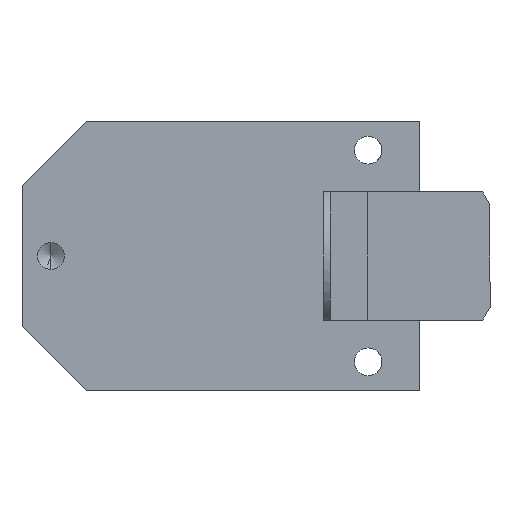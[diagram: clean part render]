
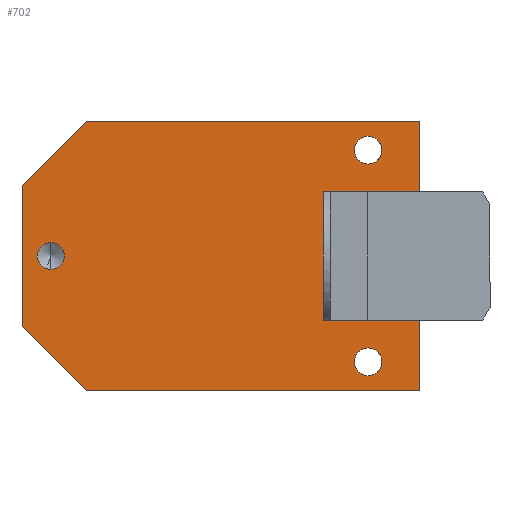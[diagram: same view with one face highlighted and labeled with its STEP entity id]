
A CAD part, front view. The second image highlights one B-rep face of the part: STEP entity #702.
In plain terms, the highlighted planar face has unit normal (0, -1, 0).
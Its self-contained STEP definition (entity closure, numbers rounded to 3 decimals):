
#2 = ORIENTED_EDGE ( 'NONE', *, *, #648, .T. ) ;
#219 = EDGE_CURVE ( 'NONE', #254, #220, #1499, .T. ) ;
#220 = VERTEX_POINT ( 'NONE', #1494 ) ;
#254 = VERTEX_POINT ( 'NONE', #1325 ) ;
#283 = VERTEX_POINT ( 'NONE', #1452 ) ;
#288 = EDGE_CURVE ( 'NONE', #283, #442, #1423, .T. ) ;
#392 = EDGE_CURVE ( 'NONE', #409, #393, #1607, .T. ) ;
#393 = VERTEX_POINT ( 'NONE', #1602 ) ;
#409 = VERTEX_POINT ( 'NONE', #1958 ) ;
#442 = VERTEX_POINT ( 'NONE', #1819 ) ;
#526 = EDGE_CURVE ( 'NONE', #570, #554, #1999, .T. ) ;
#545 = VERTEX_POINT ( 'NONE', #1987 ) ;
#553 = EDGE_CURVE ( 'NONE', #554, #634, #1979, .T. ) ;
#554 = VERTEX_POINT ( 'NONE', #1975 ) ;
#570 = VERTEX_POINT ( 'NONE', #2190 ) ;
#572 = EDGE_CURVE ( 'NONE', #545, #570, #2189, .T. ) ;
#592 = VERTEX_POINT ( 'NONE', #2160 ) ;
#634 = VERTEX_POINT ( 'NONE', #2003 ) ;
#648 = EDGE_CURVE ( 'NONE', #220, #254, #2080, .T. ) ;
#649 = EDGE_CURVE ( 'NONE', #650, #779, #2122, .T. ) ;
#650 = VERTEX_POINT ( 'NONE', #2118 ) ;
#651 = EDGE_LOOP ( 'NONE', ( #806, #652, #653, #654, #857, #867, #859, #869, #862, #855 ) ) ;
#652 = ORIENTED_EDGE ( 'NONE', *, *, #553, .T. ) ;
#653 = ORIENTED_EDGE ( 'NONE', *, *, #782, .F. ) ;
#654 = ORIENTED_EDGE ( 'NONE', *, *, #649, .F. ) ;
#655 = ORIENTED_EDGE ( 'NONE', *, *, #392, .T. ) ;
#656 = EDGE_LOOP ( 'NONE', ( #2, #818 ) ) ;
#679 = EDGE_CURVE ( 'NONE', #442, #283, #2415, .T. ) ;
#681 = VERTEX_POINT ( 'NONE', #2408 ) ;
#682 = EDGE_LOOP ( 'NONE', ( #700, #836 ) ) ;
#700 = ORIENTED_EDGE ( 'NONE', *, *, #679, .F. ) ;
#702 = ADVANCED_FACE ( 'NONE', ( #2423, #2369, #2368, #2367 ), #2366, .F. ) ;
#705 = EDGE_CURVE ( 'NONE', #706, #681, #2422, .T. ) ;
#706 = VERTEX_POINT ( 'NONE', #2417 ) ;
#758 = EDGE_CURVE ( 'NONE', #545, #592, #2233, .T. ) ;
#779 = VERTEX_POINT ( 'NONE', #2259 ) ;
#782 = EDGE_CURVE ( 'NONE', #779, #634, #2254, .T. ) ;
#806 = ORIENTED_EDGE ( 'NONE', *, *, #526, .T. ) ;
#817 = EDGE_LOOP ( 'NONE', ( #871, #655 ) ) ;
#818 = ORIENTED_EDGE ( 'NONE', *, *, #219, .T. ) ;
#836 = ORIENTED_EDGE ( 'NONE', *, *, #288, .F. ) ;
#855 = ORIENTED_EDGE ( 'NONE', *, *, #572, .T. ) ;
#857 = ORIENTED_EDGE ( 'NONE', *, *, #858, .T. ) ;
#858 = EDGE_CURVE ( 'NONE', #650, #706, #2493, .T. ) ;
#859 = ORIENTED_EDGE ( 'NONE', *, *, #868, .T. ) ;
#860 = VERTEX_POINT ( 'NONE', #2489 ) ;
#861 = EDGE_CURVE ( 'NONE', #860, #592, #2488, .T. ) ;
#862 = ORIENTED_EDGE ( 'NONE', *, *, #758, .F. ) ;
#867 = ORIENTED_EDGE ( 'NONE', *, *, #705, .T. ) ;
#868 = EDGE_CURVE ( 'NONE', #681, #860, #2582, .T. ) ;
#869 = ORIENTED_EDGE ( 'NONE', *, *, #861, .T. ) ;
#870 = EDGE_CURVE ( 'NONE', #393, #409, #2461, .T. ) ;
#871 = ORIENTED_EDGE ( 'NONE', *, *, #870, .T. ) ;
#1325 = CARTESIAN_POINT ( 'NONE',  ( 54., 0., 35.35 ) ) ;
#1419 = DIRECTION ( 'NONE',  ( 0., 0., -1. ) ) ;
#1420 = DIRECTION ( 'NONE',  ( 0., -1., 0. ) ) ;
#1421 = CARTESIAN_POINT ( 'NONE',  ( 4.5, 0., 21. ) ) ;
#1422 = AXIS2_PLACEMENT_3D ( 'NONE', #1421, #1420, #1419 ) ;
#1423 = CIRCLE ( 'NONE', #1422, 2.1 ) ;
#1452 = CARTESIAN_POINT ( 'NONE',  ( 4.5, 0., 23.1 ) ) ;
#1494 = CARTESIAN_POINT ( 'NONE',  ( 54., 0., 39.65 ) ) ;
#1495 = DIRECTION ( 'NONE',  ( 0., 0., 1. ) ) ;
#1496 = DIRECTION ( 'NONE',  ( 0., 1., 0. ) ) ;
#1497 = CARTESIAN_POINT ( 'NONE',  ( 54., 0., 37.5 ) ) ;
#1498 = AXIS2_PLACEMENT_3D ( 'NONE', #1497, #1496, #1495 ) ;
#1499 = CIRCLE ( 'NONE', #1498, 2.15 ) ;
#1602 = CARTESIAN_POINT ( 'NONE',  ( 54., 0., 6.65 ) ) ;
#1603 = DIRECTION ( 'NONE',  ( 0., 0., 1. ) ) ;
#1604 = DIRECTION ( 'NONE',  ( 0., 1., 0. ) ) ;
#1605 = CARTESIAN_POINT ( 'NONE',  ( 54., 0., 4.5 ) ) ;
#1606 = AXIS2_PLACEMENT_3D ( 'NONE', #1605, #1604, #1603 ) ;
#1607 = CIRCLE ( 'NONE', #1606, 2.15 ) ;
#1819 = CARTESIAN_POINT ( 'NONE',  ( 4.5, 0., 18.9 ) ) ;
#1958 = CARTESIAN_POINT ( 'NONE',  ( 54., 0., 2.35 ) ) ;
#1975 = CARTESIAN_POINT ( 'NONE',  ( 47., 0., 31. ) ) ;
#1976 = DIRECTION ( 'NONE',  ( 1., 0., 0. ) ) ;
#1977 = VECTOR ( 'NONE', #1976, 1000. ) ;
#1978 = CARTESIAN_POINT ( 'NONE',  ( 62., 0., 31. ) ) ;
#1979 = LINE ( 'NONE', #1978, #1977 ) ;
#1987 = CARTESIAN_POINT ( 'NONE',  ( 62., 0., 11. ) ) ;
#1999 = LINE ( 'NONE', #2021, #2020 ) ;
#2003 = CARTESIAN_POINT ( 'NONE',  ( 62., 0., 31. ) ) ;
#2019 = DIRECTION ( 'NONE',  ( 0., 0., 1. ) ) ;
#2020 = VECTOR ( 'NONE', #2019, 1000. ) ;
#2021 = CARTESIAN_POINT ( 'NONE',  ( 47., 0., 11. ) ) ;
#2080 = CIRCLE ( 'NONE', #2126, 2.15 ) ;
#2118 = CARTESIAN_POINT ( 'NONE',  ( 10., 0., 42. ) ) ;
#2119 = DIRECTION ( 'NONE',  ( 1., 0., 0. ) ) ;
#2120 = VECTOR ( 'NONE', #2119, 1000. ) ;
#2121 = CARTESIAN_POINT ( 'NONE',  ( 0., 0., 42. ) ) ;
#2122 = LINE ( 'NONE', #2121, #2120 ) ;
#2123 = DIRECTION ( 'NONE',  ( 0., 0., 1. ) ) ;
#2124 = DIRECTION ( 'NONE',  ( 0., 1., 0. ) ) ;
#2125 = CARTESIAN_POINT ( 'NONE',  ( 54., 0., 37.5 ) ) ;
#2126 = AXIS2_PLACEMENT_3D ( 'NONE', #2125, #2124, #2123 ) ;
#2160 = CARTESIAN_POINT ( 'NONE',  ( 62., 0., 0. ) ) ;
#2186 = DIRECTION ( 'NONE',  ( -1., 0., 0. ) ) ;
#2187 = VECTOR ( 'NONE', #2186, 1000. ) ;
#2188 = CARTESIAN_POINT ( 'NONE',  ( 62., 0., 11. ) ) ;
#2189 = LINE ( 'NONE', #2188, #2187 ) ;
#2190 = CARTESIAN_POINT ( 'NONE',  ( 47., 0., 11. ) ) ;
#2230 = DIRECTION ( 'NONE',  ( 0., 0., -1. ) ) ;
#2231 = VECTOR ( 'NONE', #2230, 1000. ) ;
#2232 = CARTESIAN_POINT ( 'NONE',  ( 62., 0., 42. ) ) ;
#2233 = LINE ( 'NONE', #2232, #2231 ) ;
#2251 = DIRECTION ( 'NONE',  ( 0., 0., -1. ) ) ;
#2252 = VECTOR ( 'NONE', #2251, 1000. ) ;
#2253 = CARTESIAN_POINT ( 'NONE',  ( 62., 0., 42. ) ) ;
#2254 = LINE ( 'NONE', #2253, #2252 ) ;
#2259 = CARTESIAN_POINT ( 'NONE',  ( 62., 0., 42. ) ) ;
#2362 = DIRECTION ( 'NONE',  ( 0., 1., 0. ) ) ;
#2363 = CARTESIAN_POINT ( 'NONE',  ( 0., 0., 42. ) ) ;
#2364 = AXIS2_PLACEMENT_3D ( 'NONE', #2363, #2362, #2433 ) ;
#2366 = PLANE ( 'NONE',  #2364 ) ;
#2367 = FACE_OUTER_BOUND ( 'NONE', #651, .T. ) ;
#2368 = FACE_BOUND ( 'NONE', #656, .T. ) ;
#2369 = FACE_BOUND ( 'NONE', #817, .T. ) ;
#2408 = CARTESIAN_POINT ( 'NONE',  ( 0., 0., 10. ) ) ;
#2411 = DIRECTION ( 'NONE',  ( 0., 0., -1. ) ) ;
#2412 = DIRECTION ( 'NONE',  ( 0., -1., 0. ) ) ;
#2413 = CARTESIAN_POINT ( 'NONE',  ( 4.5, 0., 21. ) ) ;
#2414 = AXIS2_PLACEMENT_3D ( 'NONE', #2413, #2412, #2411 ) ;
#2415 = CIRCLE ( 'NONE', #2414, 2.1 ) ;
#2417 = CARTESIAN_POINT ( 'NONE',  ( 0., 0., 32. ) ) ;
#2419 = DIRECTION ( 'NONE',  ( 0., 0., -1. ) ) ;
#2420 = VECTOR ( 'NONE', #2419, 1000. ) ;
#2421 = CARTESIAN_POINT ( 'NONE',  ( 0., 0., 42. ) ) ;
#2422 = LINE ( 'NONE', #2421, #2420 ) ;
#2423 = FACE_BOUND ( 'NONE', #682, .T. ) ;
#2433 = DIRECTION ( 'NONE',  ( 0., 0., 1. ) ) ;
#2457 = DIRECTION ( 'NONE',  ( 0., 0., 1. ) ) ;
#2458 = DIRECTION ( 'NONE',  ( 0., 1., 0. ) ) ;
#2459 = CARTESIAN_POINT ( 'NONE',  ( 54., 0., 4.5 ) ) ;
#2460 = AXIS2_PLACEMENT_3D ( 'NONE', #2459, #2458, #2457 ) ;
#2461 = CIRCLE ( 'NONE', #2460, 2.15 ) ;
#2486 = VECTOR ( 'NONE', #2504, 1000. ) ;
#2487 = CARTESIAN_POINT ( 'NONE',  ( 0., 0., 0. ) ) ;
#2488 = LINE ( 'NONE', #2487, #2486 ) ;
#2489 = CARTESIAN_POINT ( 'NONE',  ( 10., 0., 0. ) ) ;
#2490 = DIRECTION ( 'NONE',  ( -0.707, 0., -0.707 ) ) ;
#2491 = VECTOR ( 'NONE', #2490, 1000. ) ;
#2492 = CARTESIAN_POINT ( 'NONE',  ( 10., 0., 42. ) ) ;
#2493 = LINE ( 'NONE', #2492, #2491 ) ;
#2504 = DIRECTION ( 'NONE',  ( 1., 0., 0. ) ) ;
#2579 = DIRECTION ( 'NONE',  ( 0.707, 0., -0.707 ) ) ;
#2580 = VECTOR ( 'NONE', #2579, 1000. ) ;
#2581 = CARTESIAN_POINT ( 'NONE',  ( 0., 0., 10. ) ) ;
#2582 = LINE ( 'NONE', #2581, #2580 ) ;
